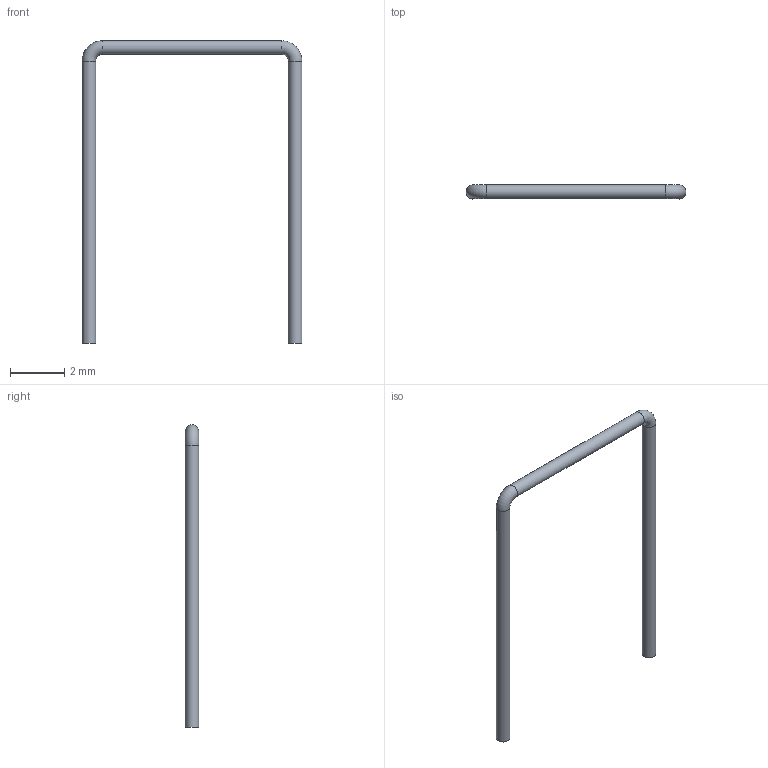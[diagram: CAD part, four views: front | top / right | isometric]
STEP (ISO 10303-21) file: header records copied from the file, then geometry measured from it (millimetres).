
FILE_DESCRIPTION(/* description */ ('STEP AP242 Edition 2','CAx-IF Rec.Pracs.---Representation and Presentation of Product Manufacturing Information (PMI)---4.0---2014-10-13','CAx-IF Rec.Pracs.---3D Tessellated Geometry---0.4---2014-09-14','2;1','CAx-IF Rec.Pracs.---User Defined Attributes---1.5---2016-08-15'),/* implementation_level */ '2;1');
FILE_NAME(/* name */ 'Assembly 1 - CONN-TH_HFBR-1521Z~CONN-TH_HFBR-1521Z~nxQB (8)',/* time_stamp */ '2026-04-02T09:55:12Z',/* author */ (''),/* organization */ (''),/* preprocessor_version */ 'ST-DEVELOPER v20',/* originating_system */ 'ONSHAPE BY PTC INC, 1.212',/* authorisation */ ' ');
FILE_SCHEMA (('AP242_MANAGED_MODEL_BASED_3D_ENGINEERING_MIM_LF { 1 0 10303 442 3 1 4 }'));
Length unit declared in the file: metre
Products named in the file (1): CONN-TH_HFBR-1521Z~CONN-TH_HFBR-1521Z~nxQB
Bounding box: 8.12 x 0.5 x 11.17 mm (x, y, z)
Volume: 5.7 mm3; surface area: 46 mm2
Topology: 1 solids, 1 shells, 7 faces, 12 edges, 7 vertices
Faces by surface type: cylinder 3, plane 2, torus 2
Full cylindrical faces by diameter (mm): 0.5 x3
Entity records: 206 total; most frequent: DIRECTION 28, CARTESIAN_POINT 20, AXIS2_PLACEMENT_3D 14, ORIENTED_EDGE 12, EDGE_LOOP 12, FACE_BOUND 12, PRESENTATION_STYLE_ASSIGNMENT 8, SURFACE_STYLE_USAGE 8
